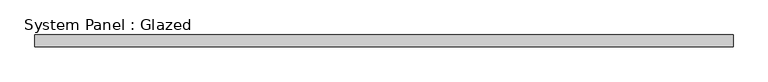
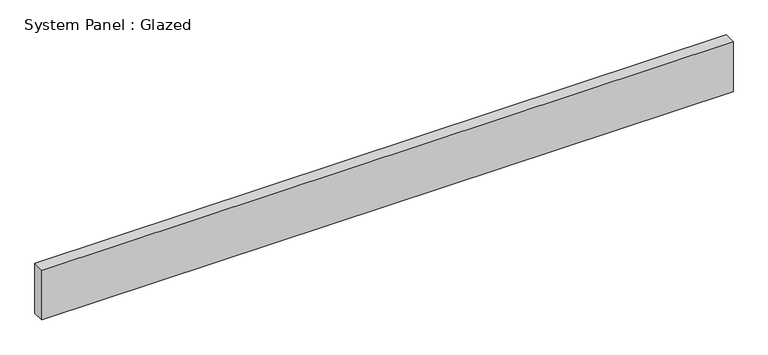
"""IFC4 building model written with IfcOpenShell, lengths in millimetres: plate geometry, System Panel : Glazed."""

from ifc_helpers import new_model, si_unit, origin, origin_with_axes, place, context, project, spatial, polyline, outline, extrude, source, transform, mapped, element, save


def system_panel_glazed_3c61d676(model_context):
    return source(origin(), model_context, "Body", "SweptSolid", [
        extrude(outline(polyline([(749.3, 19.05), (-749.3, 19.05), (-749.3, 44.45), (749.3, 44.45), (749.3, 19.05)])), origin_with_axes(), (0.0, 0.0, 1.0), 114.3),
    ])


if __name__ == "__main__":
    model = new_model("IFC4")
    model_context = context("Model", 3, world=origin())
    ifc_project = project(units=[si_unit("LENGTHUNIT", "METRE", prefix="MILLI")], contexts=[model_context])
    site = spatial("IfcSite", under=ifc_project)
    building = spatial("IfcBuilding", under=site)
    placement = place(None, origin())
    system_panel_glazed_shape = system_panel_glazed_3c61d676(model_context)
    element("IfcPlate", 1, ObjectType="System Panel : Glazed", at=placement, inside=building, context=model_context, shape_type="MappedRepresentation", body=[
        mapped(system_panel_glazed_shape, transform((0.0, 0.0, 0.0), x_axis=(1.0, 0.0, 0.0), y_axis=(0.0, 1.0, 0.0), z_axis=(0.0, 0.0, 1.0))),
    ])
    save(model, "model.ifc")
